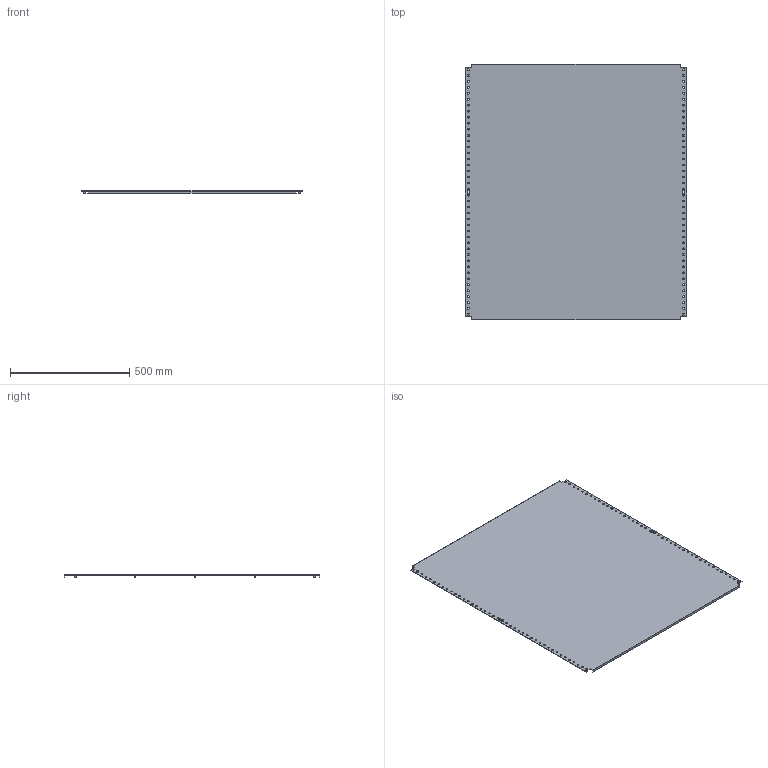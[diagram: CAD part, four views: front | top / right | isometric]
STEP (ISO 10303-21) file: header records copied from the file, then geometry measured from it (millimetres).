
FILE_DESCRIPTION (( 'STEP AP203' ), '1' );
FILE_NAME ('R6MP12100.STEP', '2025-03-28T12:06:53', ( '' ), ( '' ), 'SwSTEP 2.0', 'SolidWorks 2022', '' );
FILE_SCHEMA (( 'CONFIG_CONTROL_DESIGN' ));
Length unit declared in the file: millimetre
Products named in the file (3): R6MP12100; M5x12 DIN 7500 C Torx Zinc_stright; RB.3293.00.00.0_-09
Assembly tree (11 placements, depth 2):
  R6MP12100
    RB.3293.00.00.0_-09
    M5x12 DIN 7500 C Torx Zinc_stright  x10
Bounding box: 925 x 1070 x 15.56 mm (x, y, z)
Volume: 1803075.8 mm3; surface area: 2013435.3 mm2
Topology: 11 solids, 11 shells, 278 faces, 648 edges, 402 vertices
Faces by surface type: plane 110, cylinder 108, torus 20, cone 20, sphere 10, bspline 10
Full cylindrical faces by diameter (mm): 5 x10, 6.5 x84, 9.5 x10
Entity records: 5061 total; most frequent: CARTESIAN_POINT 882, DIRECTION 760, ORIENTED_EDGE 568, EDGE_LOOP 398, AXIS2_PLACEMENT_3D 336, EDGE_CURVE 284, VERTEX_POINT 246, FACE_OUTER_BOUND 224
